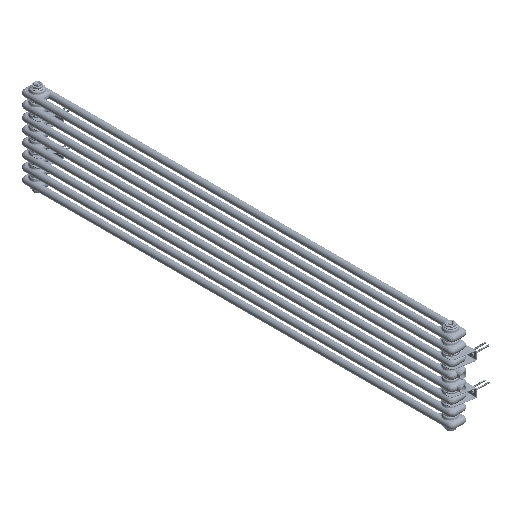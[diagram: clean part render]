
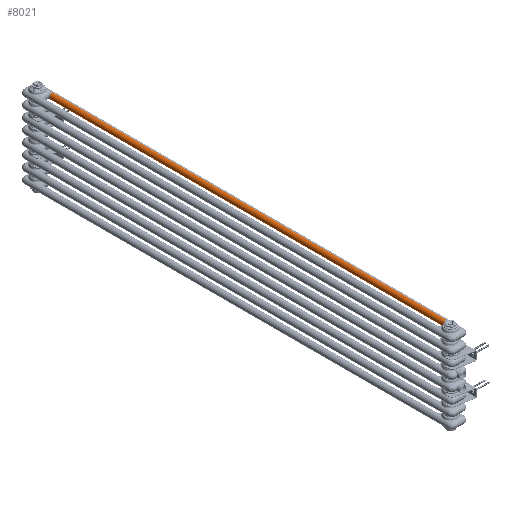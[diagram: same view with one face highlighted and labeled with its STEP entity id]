
A CAD part, isometric view. The second image highlights one B-rep face of the part: STEP entity #8021.
In plain terms, the highlighted cylindrical face has radius 12.5 mm (diameter 25 mm), a partial arc.
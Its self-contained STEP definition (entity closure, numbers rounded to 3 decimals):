
#8021=ADVANCED_FACE('',(#12245),#9943,.T.);
#9943=CYLINDRICAL_SURFACE('',#57315,12.5);
#12245=FACE_OUTER_BOUND('',#15710,.T.);
#15710=EDGE_LOOP('',(#29270,#29271,#29272,#29273,#29274,#29275));
#18930=CIRCLE('',#57296,12.5);
#18932=CIRCLE('',#57299,12.5);
#18940=CIRCLE('',#57313,12.5);
#18941=CIRCLE('',#57314,12.5);
#29270=ORIENTED_EDGE('',*,*,#46152,.F.);
#29271=ORIENTED_EDGE('',*,*,#46153,.F.);
#29272=ORIENTED_EDGE('',*,*,#46154,.F.);
#29273=ORIENTED_EDGE('',*,*,#46144,.F.);
#29274=ORIENTED_EDGE('',*,*,#46131,.T.);
#29275=ORIENTED_EDGE('',*,*,#46129,.T.);
#39291=VERTEX_POINT('',#153746);
#39292=VERTEX_POINT('',#153748);
#39293=VERTEX_POINT('',#153752);
#39297=VERTEX_POINT('',#154070);
#39304=VERTEX_POINT('',#154141);
#39305=VERTEX_POINT('',#154145);
#46129=EDGE_CURVE('',#39292,#39291,#18930,.T.);
#46131=EDGE_CURVE('',#39293,#39292,#18932,.T.);
#46144=EDGE_CURVE('',#39293,#39297,#50970,.T.);
#46152=EDGE_CURVE('',#39304,#39291,#50975,.T.);
#46153=EDGE_CURVE('',#39305,#39304,#18940,.T.);
#46154=EDGE_CURVE('',#39297,#39305,#18941,.T.);
#50970=LINE('',#154069,#53217);
#50975=LINE('',#154142,#53222);
#53217=VECTOR('',#66673,1.);
#53222=VECTOR('',#66680,1.);
#57296=AXIS2_PLACEMENT_3D('',#153747,#66639,#66640);
#57299=AXIS2_PLACEMENT_3D('',#153751,#66645,#66646);
#57313=AXIS2_PLACEMENT_3D('',#154144,#66683,#66684);
#57314=AXIS2_PLACEMENT_3D('',#154146,#66685,#66686);
#57315=AXIS2_PLACEMENT_3D('',#154147,#66687,#66688);
#66639=DIRECTION('',(0.,1.,0.));
#66640=DIRECTION('',(-1.,0.,0.));
#66645=DIRECTION('',(0.,1.,0.));
#66646=DIRECTION('',(0.,0.,-1.));
#66673=DIRECTION('',(0.,1.,0.));
#66680=DIRECTION('',(0.,-1.,0.));
#66683=DIRECTION('',(0.,1.,0.));
#66684=DIRECTION('',(-1.,0.,0.));
#66685=DIRECTION('',(0.,1.,0.));
#66686=DIRECTION('',(0.,0.,-1.));
#66687=DIRECTION('',(0.,1.,0.));
#66688=DIRECTION('',(0.,0.,1.));
#153746=CARTESIAN_POINT('',(57.5,79.5,-695.));
#153747=CARTESIAN_POINT('',(57.5,79.5,-707.5));
#153748=CARTESIAN_POINT('',(45.,79.5,-707.5));
#153751=CARTESIAN_POINT('',(57.5,79.5,-707.5));
#153752=CARTESIAN_POINT('',(57.5,79.5,-720.));
#154069=CARTESIAN_POINT('',(57.5,79.5,-720.));
#154070=CARTESIAN_POINT('',(57.5,1723.5,-720.));
#154141=CARTESIAN_POINT('',(57.5,1723.5,-695.));
#154142=CARTESIAN_POINT('',(57.5,523.5,-695.));
#154144=CARTESIAN_POINT('',(57.5,1723.5,-707.5));
#154145=CARTESIAN_POINT('',(45.,1723.5,-707.5));
#154146=CARTESIAN_POINT('',(57.5,1723.5,-707.5));
#154147=CARTESIAN_POINT('',(57.5,79.5,-707.5));
